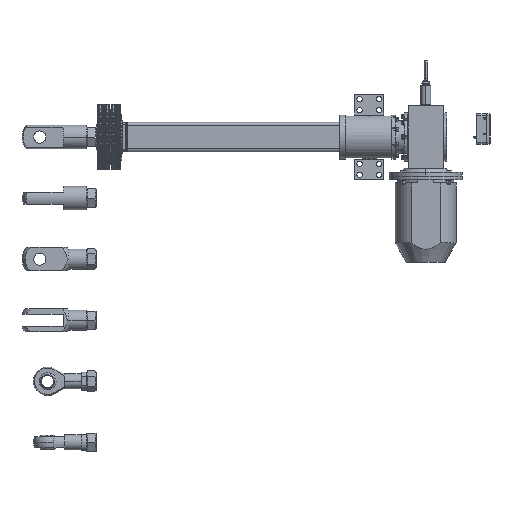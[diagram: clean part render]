
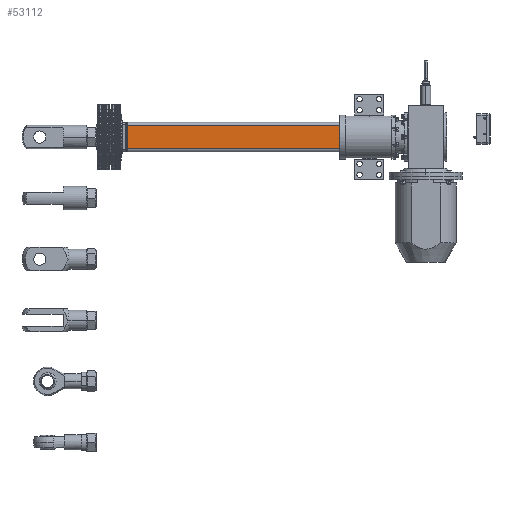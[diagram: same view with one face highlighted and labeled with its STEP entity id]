
A CAD part, front view. The second image highlights one B-rep face of the part: STEP entity #53112.
In plain terms, the highlighted planar face has unit normal (0, -1, 0).
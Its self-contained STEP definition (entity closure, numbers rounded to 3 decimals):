
#3652 = EDGE_LOOP ( 'NONE', ( #13889, #13890, #13891, #13892 ) ) ;
#7362 = CARTESIAN_POINT ( 'NONE',  ( 880., -60., 48. ) ) ;
#7374 = PLANE ( 'NONE',  #45864 ) ;
#7380 = DIRECTION ( 'NONE',  ( 0., 1., 0. ) ) ;
#7382 = DIRECTION ( 'NONE',  ( 0., 0., 1. ) ) ;
#13195 = VERTEX_POINT ( 'NONE', #28475 ) ;
#13197 = VERTEX_POINT ( 'NONE', #28477 ) ;
#13209 = VERTEX_POINT ( 'NONE', #28489 ) ;
#13228 = VERTEX_POINT ( 'NONE', #28508 ) ;
#13889 = ORIENTED_EDGE ( 'NONE', *, *, #60879, .T. ) ;
#13890 = ORIENTED_EDGE ( 'NONE', *, *, #60880, .T. ) ;
#13891 = ORIENTED_EDGE ( 'NONE', *, *, #60881, .F. ) ;
#13892 = ORIENTED_EDGE ( 'NONE', *, *, #60845, .F. ) ;
#28475 = CARTESIAN_POINT ( 'NONE',  ( 880., -60., 48. ) ) ;
#28477 = CARTESIAN_POINT ( 'NONE',  ( 880., -60., -48. ) ) ;
#28489 = CARTESIAN_POINT ( 'NONE',  ( 2., -60., -48. ) ) ;
#28508 = CARTESIAN_POINT ( 'NONE',  ( 2., -60., 48. ) ) ;
#35697 = FACE_OUTER_BOUND ( 'NONE', #3652, .T. ) ;
#45864 = AXIS2_PLACEMENT_3D ( 'NONE', #7362, #7380, #7382 ) ;
#48264 = LINE ( 'NONE', #49827, #48266 ) ;
#48266 = VECTOR ( 'NONE', #49828, 1000. ) ;
#48343 = LINE ( 'NONE', #49911, #48352 ) ;
#48346 = LINE ( 'NONE', #49909, #48349 ) ;
#48349 = VECTOR ( 'NONE', #49904, 1000. ) ;
#48351 = LINE ( 'NONE', #49917, #48356 ) ;
#48352 = VECTOR ( 'NONE', #49916, 1000. ) ;
#48356 = VECTOR ( 'NONE', #49919, 1000. ) ;
#49827 = CARTESIAN_POINT ( 'NONE',  ( 880., -60., 48. ) ) ;
#49828 = DIRECTION ( 'NONE',  ( 0., 0., -1. ) ) ;
#49904 = DIRECTION ( 'NONE',  ( -1., 0., 0. ) ) ;
#49909 = CARTESIAN_POINT ( 'NONE',  ( 880., -60., 48. ) ) ;
#49911 = CARTESIAN_POINT ( 'NONE',  ( 2., -60., 48. ) ) ;
#49916 = DIRECTION ( 'NONE',  ( 0., 0., -1. ) ) ;
#49917 = CARTESIAN_POINT ( 'NONE',  ( 880., -60., -48. ) ) ;
#49919 = DIRECTION ( 'NONE',  ( -1., 0., 0. ) ) ;
#53112 = ADVANCED_FACE ( 'NONE', ( #35697 ), #7374, .F. ) ;
#60845 = EDGE_CURVE ( 'NONE', #13195, #13197, #48264, .T. ) ;
#60879 = EDGE_CURVE ( 'NONE', #13195, #13228, #48346, .T. ) ;
#60880 = EDGE_CURVE ( 'NONE', #13228, #13209, #48343, .T. ) ;
#60881 = EDGE_CURVE ( 'NONE', #13197, #13209, #48351, .T. ) ;
